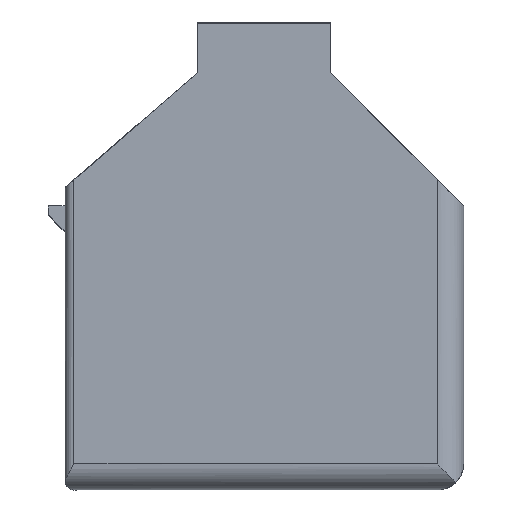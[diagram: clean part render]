
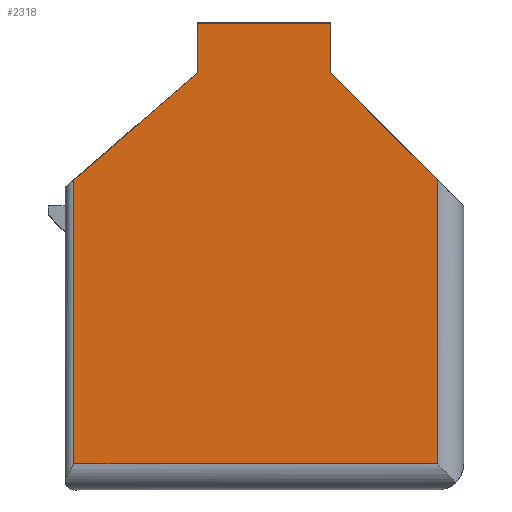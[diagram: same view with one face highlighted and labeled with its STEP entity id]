
A CAD part, left-side view. The second image highlights one B-rep face of the part: STEP entity #2318.
In plain terms, the highlighted planar face has unit normal (-1, 0, -0.018).
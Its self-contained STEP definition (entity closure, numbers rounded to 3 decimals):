
#510=ORIENTED_EDGE('',*,*,#613,.T.);
#511=ORIENTED_EDGE('',*,*,#610,.T.);
#512=ORIENTED_EDGE('',*,*,#666,.T.);
#513=ORIENTED_EDGE('',*,*,#683,.T.);
#514=ORIENTED_EDGE('',*,*,#794,.T.);
#515=ORIENTED_EDGE('',*,*,#659,.F.);
#516=ORIENTED_EDGE('',*,*,#793,.T.);
#517=ORIENTED_EDGE('',*,*,#803,.T.);
#610=EDGE_CURVE('',#857,#856,#1014,.T.);
#613=EDGE_CURVE('',#859,#857,#1015,.T.);
#659=EDGE_CURVE('',#894,#895,#1050,.T.);
#666=EDGE_CURVE('',#856,#900,#1057,.T.);
#683=EDGE_CURVE('',#900,#914,#1068,.T.);
#793=EDGE_CURVE('',#894,#970,#1175,.T.);
#794=EDGE_CURVE('',#914,#895,#1176,.T.);
#803=EDGE_CURVE('',#970,#859,#1185,.T.);
#856=VERTEX_POINT('',#3016);
#857=VERTEX_POINT('',#3018);
#859=VERTEX_POINT('',#3034);
#894=VERTEX_POINT('',#3128);
#895=VERTEX_POINT('',#3130);
#900=VERTEX_POINT('',#3144);
#914=VERTEX_POINT('',#3179);
#970=VERTEX_POINT('',#3399);
#1014=LINE('',#3017,#1233);
#1015=LINE('',#3033,#1234);
#1050=LINE('',#3129,#1269);
#1057=LINE('',#3143,#1276);
#1068=LINE('',#3178,#1287);
#1175=LINE('',#3400,#1394);
#1176=LINE('',#3402,#1395);
#1185=LINE('',#3424,#1404);
#1233=VECTOR('',#2512,1000.);
#1234=VECTOR('',#2517,1000.);
#1269=VECTOR('',#2594,1000.);
#1276=VECTOR('',#2605,1000.);
#1287=VECTOR('',#2636,1000.);
#1394=VECTOR('',#2817,1000.);
#1395=VECTOR('',#2820,1000.);
#1404=VECTOR('',#2855,1000.);
#1485=EDGE_LOOP('',(#510,#511,#512,#513,#514,#515,#516,#517));
#1571=FACE_BOUND('',#1485,.T.);
#1644=PLANE('',#2431);
#2318=ADVANCED_FACE('',(#1571),#1644,.T.);
#2431=AXIS2_PLACEMENT_3D('',#3423,#2853,#2854);
#2512=DIRECTION('',(0.,-1.,0.));
#2517=DIRECTION('',(0.017,0.,-1.));
#2594=DIRECTION('',(0.,-1.,0.));
#2605=DIRECTION('',(-0.017,0.,1.));
#2636=DIRECTION('',(-0.012,0.707,0.707));
#2817=DIRECTION('',(0.017,0.,-1.));
#2820=DIRECTION('',(-0.017,0.,1.));
#2853=DIRECTION('',(-1.,0.,-0.017));
#2854=DIRECTION('',(-0.017,0.,1.));
#2855=DIRECTION('',(0.011,0.755,-0.655));
#3016=CARTESIAN_POINT('',(-29.659,-19.815,2.948));
#3017=CARTESIAN_POINT('',(-29.659,-19.815,2.948));
#3018=CARTESIAN_POINT('',(-29.659,21.085,2.948));
#3033=CARTESIAN_POINT('',(-29.625,21.085,1.));
#3034=CARTESIAN_POINT('',(-30.217,21.085,34.936));
#3128=CARTESIAN_POINT('',(-30.525,7.185,52.588));
#3129=CARTESIAN_POINT('',(-30.525,-7.815,52.588));
#3130=CARTESIAN_POINT('',(-30.525,-7.815,52.588));
#3143=CARTESIAN_POINT('',(-30.166,-19.815,31.988));
#3144=CARTESIAN_POINT('',(-30.218,-19.815,34.988));
#3178=CARTESIAN_POINT('',(-30.166,-22.815,31.988));
#3179=CARTESIAN_POINT('',(-30.428,-7.815,46.988));
#3399=CARTESIAN_POINT('',(-30.428,7.185,46.988));
#3400=CARTESIAN_POINT('',(-30.55,7.185,53.988));
#3402=CARTESIAN_POINT('',(-30.428,-7.815,46.988));
#3423=CARTESIAN_POINT('',(-29.66,20.985,2.988));
#3424=CARTESIAN_POINT('',(-30.428,7.185,46.988));
